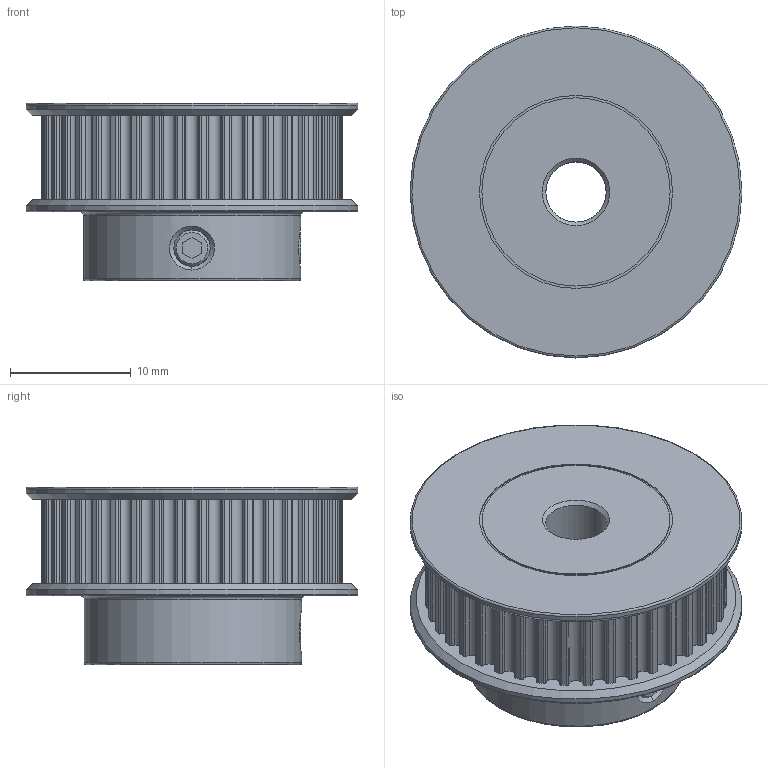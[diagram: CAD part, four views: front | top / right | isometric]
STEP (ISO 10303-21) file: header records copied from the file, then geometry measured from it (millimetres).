
FILE_DESCRIPTION(('FreeCAD Model'),'2;1');
FILE_NAME('Open CASCADE Shape Model','2021-05-04T16:04:59',('Author'),( ''),'Open CASCADE STEP processor 7.5','FreeCAD','Unknown');
FILE_SCHEMA(('AUTOMOTIVE_DESIGN { 1 0 10303 214 1 1 1 1 }'));
Length unit declared in the file: millimetre
Products named in the file (1): GT2_40T_8_6
Bounding box: 27.5 x 27.5 x 14.7 mm (x, y, z)
Volume: 5502 mm3; surface area: 2917 mm2
Topology: 1 solids, 1 shells, 289 faces, 829 edges, 551 vertices
Faces by surface type: cylinder 250, plane 25, cone 6, bspline 4, torus 4
Full cylindrical faces by diameter (mm): 3 x4, 5 x1, 15.6 x1, 16 x1, 18 x1, 27.5 x2
Entity records: 23065 total; most frequent: CARTESIAN_POINT 6500, DIRECTION 3327, ORIENTED_EDGE 1658, PCURVE 1658, DEFINITIONAL_REPRESENTATION 1658, LINE 1400, VECTOR 1400, CIRCLE 845
